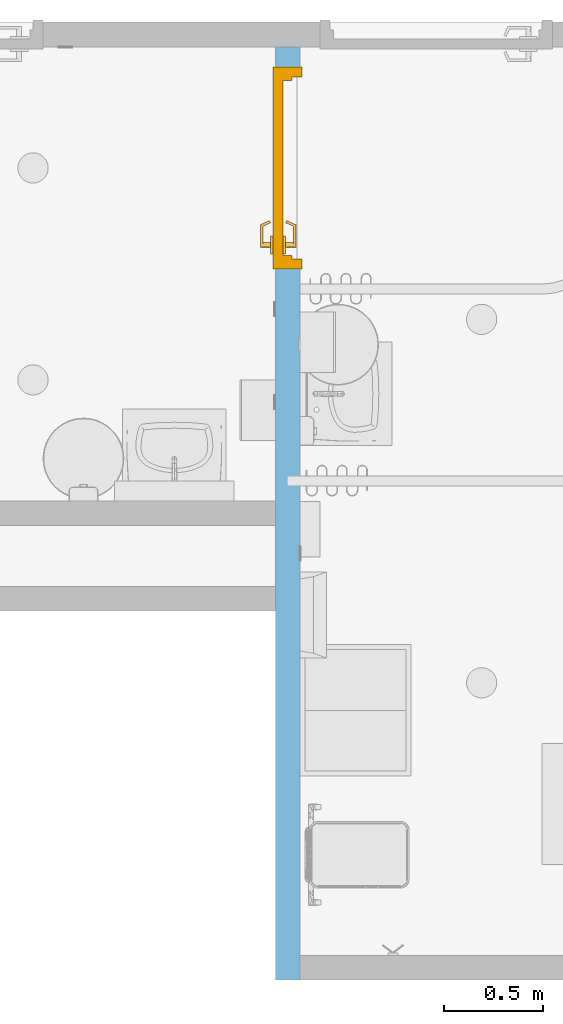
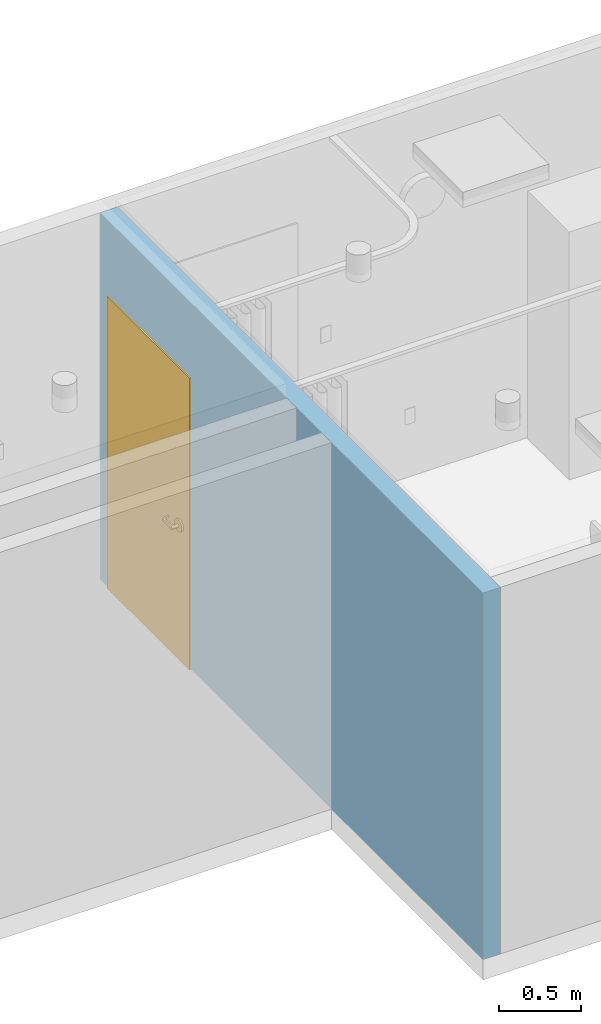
# One storey, part 3 of 14: 1 door, 1 opening, plus 1 element that does not belong to this part.
"""IFC2X3 building model written with IfcOpenShell, lengths in feet."""

from ifc_helpers import new_model, entity, si_unit, converted_unit, derived_unit, direction, frame, frame_2d, origin, place, context, subcontext, project, spatial, rectangle, extrude, faceted_brep, source, transform, mapped, material, layer, layer_set, layer_usage, type_object, type_shapes, element, fill, save


model = new_model("IFC2X3")

# Units and contexts
model_context = context("Model", 3, precision=0.0001, world=origin(), true_north=direction((6.12303176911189e-17, 1.0)))
body_context = subcontext(model_context, "Body", "Model", "MODEL_VIEW")
ifc_project = project(units=[converted_unit("LENGTHUNIT", "FOOT", entity("IfcRatioMeasure", 0.3048), si_unit("LENGTHUNIT", "METRE"), dimensions=[1, 0, 0, 0, 0, 0, 0]), converted_unit("AREAUNIT", "SQUARE FOOT", entity("IfcRatioMeasure", 0.09290304), si_unit("AREAUNIT", "SQUARE_METRE"), dimensions=[2, 0, 0, 0, 0, 0, 0]), converted_unit("VOLUMEUNIT", "CUBIC FOOT", entity("IfcRatioMeasure", 0.028316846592), si_unit("VOLUMEUNIT", "CUBIC_METRE"), dimensions=[3, 0, 0, 0, 0, 0, 0]), converted_unit("PLANEANGLEUNIT", "DEGREE", entity("IfcRatioMeasure", 0.0174532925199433), si_unit("PLANEANGLEUNIT", "RADIAN"), dimensions=[0, 0, 0, 0, 0, 0, 0]), si_unit("MASSUNIT", "GRAM", prefix="KILO"), derived_unit("MASSDENSITYUNIT", [(si_unit("MASSUNIT", "GRAM", prefix="KILO"), 1), (si_unit("LENGTHUNIT", "METRE"), -3)]), si_unit("TIMEUNIT", "SECOND"), si_unit("FREQUENCYUNIT", "HERTZ"), si_unit("THERMODYNAMICTEMPERATUREUNIT", "DEGREE_CELSIUS"), derived_unit("THERMALTRANSMITTANCEUNIT", [(si_unit("MASSUNIT", "GRAM", prefix="KILO"), 1), (si_unit("THERMODYNAMICTEMPERATUREUNIT", "KELVIN"), -1), (si_unit("TIMEUNIT", "SECOND"), -3)]), derived_unit("VOLUMETRICFLOWRATEUNIT", [(si_unit("LENGTHUNIT", "METRE"), 3), (si_unit("TIMEUNIT", "SECOND"), -1)]), si_unit("ELECTRICCURRENTUNIT", "AMPERE"), si_unit("ELECTRICVOLTAGEUNIT", "VOLT"), si_unit("POWERUNIT", "WATT"), si_unit("FORCEUNIT", "NEWTON"), si_unit("ILLUMINANCEUNIT", "LUX"), si_unit("LUMINOUSFLUXUNIT", "LUMEN"), si_unit("LUMINOUSINTENSITYUNIT", "CANDELA"), derived_unit("USERDEFINED", [(si_unit("MASSUNIT", "GRAM", prefix="KILO"), -1), (si_unit("LENGTHUNIT", "METRE"), -2), (si_unit("TIMEUNIT", "SECOND"), 3), (si_unit("LUMINOUSFLUXUNIT", "LUMEN"), 1)]), derived_unit("LINEARVELOCITYUNIT", [(si_unit("LENGTHUNIT", "METRE"), 1), (si_unit("TIMEUNIT", "SECOND"), -1)]), si_unit("PRESSUREUNIT", "PASCAL"), derived_unit("USERDEFINED", [(si_unit("LENGTHUNIT", "METRE"), -2), (si_unit("MASSUNIT", "GRAM", prefix="KILO"), 1), (si_unit("TIMEUNIT", "SECOND"), -2)])], contexts=[model_context])

# Site, building, storey
site_placement = place(None, origin())
site = spatial("IfcSite", under=ifc_project, at=site_placement, Name="Default", CompositionType="ELEMENT")
building_placement = place(site_placement, origin())
building = spatial("IfcBuilding", under=site, at=building_placement, Name="OUTPATIENT / PACT CLINIC (Ch. 265)", CompositionType="ELEMENT")
storey_placement = place(building_placement, origin())
storey = spatial("IfcBuildingStorey", under=building, at=storey_placement, Name="DATUM", CompositionType="ELEMENT", Elevation=0.0)

# Wall, opening, door
ifc_material = material(Name="<Unnamed>")
ifc_layer = layer(ifc_material, 0.40625)
ifc_layer_set = layer_set([ifc_layer], Name="Basic Wall:Interior - 4 7/8\"")
ifc_layer_usage = layer_usage(ifc_layer_set, "AXIS2", "NEGATIVE", 0.203125)
wall_type = type_object("IfcWallType", Name="Basic Wall:Interior - 4 7/8\"", PredefinedType="STANDARD", material=ifc_layer_set)
wall_placement = place(storey_placement, frame((332.434568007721, -843.093724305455, 0.0), z_axis=(0.0, 0.0, 1.0), x_axis=(0.0, -1.0, 0.0)))
wall = element("IfcWallStandardCase", 1, at=wall_placement, inside=storey, type_object=wall_type, material=ifc_layer_usage, Name="Basic Wall:Interior - 4 7/8\"", ObjectType="Basic Wall:Interior - 4 7/8\"", context=body_context, shape_type="SweptSolid", body=[
    extrude(rectangle(XDim=15.40625, YDim=0.40625, at=frame_2d((7.703125, -3.38618022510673e-15), x_axis=(-1.0, 0.0))), origin(), (0.0, 0.0, 1.0), 9.0),
])
opening_placement = place(wall_placement, frame((3.66666666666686, 0.203125, 0.0)))
opening = element("IfcOpeningElement", 2, at=opening_placement, cuts=wall, Name="Single - Flush:36\" x 84\":1", ObjectType="Opening", context=body_context, shape_type="SweptSolid", body=[
    extrude(rectangle(XDim=3.33333333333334, YDim=7.16666666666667, at=frame_2d((3.58333333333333, 1.66666666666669), x_axis=(0.0, 1.0))), frame((0.0, 0.0, 0.0), z_axis=(0.0, -1.0, 0.0), x_axis=(0.0, 0.0, 1.0)), (0.0, 0.0, 1.0), 0.40625),
])
door_style = type_object("IfcDoorStyle", Name="36\" x 84\"", ConstructionType="NOTDEFINED", OperationType="NOTDEFINED", ParameterTakesPrecedence=False, Sizeable=False)
shared_shape = source(origin(), body_context, "Body", "Brep", [
    faceted_brep([(-2.57149311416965, 0.23636872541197, 3.3541666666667), (-2.57149311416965, 0.23636872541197, 3.31250000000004), (-2.62432039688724, 0.12308025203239, 3.30208333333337), (-2.63071126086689, 0.109375, 3.30208333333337), (-2.63071126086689, 0.109375, 3.36458333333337), (-2.62432039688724, 0.123080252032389, 3.36458333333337), (-2.53373028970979, 0.218759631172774, 3.3541666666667), (-2.58655757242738, 0.105471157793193, 3.36458333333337), (-2.60416666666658, 0.0677083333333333, 3.36458333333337), (-2.60416666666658, 0.0677083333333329, 3.30208333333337), (-2.58655757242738, 0.105471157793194, 3.30208333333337), (-2.53373028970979, 0.218759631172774, 3.31250000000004), (-2.60416666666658, 0.109375, 3.30208333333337), (-2.60416666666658, 0.109375, 3.36458333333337), (-2.93619600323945, 0.0677083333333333, 3.29168707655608), (-2.93619600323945, 0.0677083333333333, 3.37497959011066), (-2.94639661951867, 0.0677083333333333, 3.37403912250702), (-2.95605949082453, 0.0677083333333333, 3.37063824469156), (-2.96460055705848, 0.0677083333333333, 3.36498251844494), (-2.97150356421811, 0.0677083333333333, 3.35741379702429), (-2.97635126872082, 0.0677083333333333, 3.34838956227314), (-2.97885065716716, 0.0677083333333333, 3.33845527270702), (-2.97885065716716, 0.0677083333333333, 3.32821139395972), (-2.97635126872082, 0.0677083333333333, 3.31827710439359), (-2.97150356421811, 0.0677083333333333, 3.30925286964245), (-2.96460055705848, 0.0677083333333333, 3.3016841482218), (-2.95605949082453, 0.0677083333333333, 3.29602842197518), (-2.94639661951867, 0.0677083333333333, 3.29262754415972), (-2.93619600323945, 0.109375, 3.29168707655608), (-2.92566985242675, 0.109375, 3.29338137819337), (-2.91591827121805, 0.109375, 3.29769150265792), (-2.90757973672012, 0.109375, 3.30433524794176), (-2.90120020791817, 0.109375, 3.31287762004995), (-2.89719737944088, 0.109375, 3.32275931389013), (-2.89583333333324, 0.109375, 3.33333333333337), (-2.89719737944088, 0.109375, 3.34390735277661), (-2.90120020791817, 0.109375, 3.35378904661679), (-2.90757973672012, 0.109375, 3.36233141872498), (-2.91591827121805, 0.109375, 3.36897516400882), (-2.92566985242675, 0.109375, 3.37328528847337), (-2.93619600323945, 0.109375, 3.37497959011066), (-2.94568224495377, 0.109375, 3.29247795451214), (-2.95473886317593, 0.109375, 3.2954000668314), (-2.96972778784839, 0.109375, 3.30692347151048), (-2.96289592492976, 0.109375, 3.30030065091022), (-2.97487870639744, 0.109375, 3.31492291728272), (-2.97808054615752, 0.109375, 3.32388185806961), (-2.97916666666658, 0.109375, 3.33333333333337), (-2.97808054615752, 0.109375, 3.34278480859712), (-2.97487870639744, 0.109375, 3.35174374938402), (-2.96289592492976, 0.109375, 3.36636601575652), (-2.96972778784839, 0.109375, 3.35974319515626), (-2.95473886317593, 0.109375, 3.37126659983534), (-2.94568224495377, 0.109375, 3.3741887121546), (-2.97916666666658, 0.234375, 3.33333333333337), (-2.97774690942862, 0.234375, 3.34411746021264), (-2.97358439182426, 0.234375, 3.3541666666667), (-2.95833333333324, 0.234375, 3.36941772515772), (-2.96696278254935, 0.234375, 3.36279611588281), (-2.94828412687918, 0.234375, 3.37358024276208), (-2.93749999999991, 0.234375, 3.37500000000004), (-2.92671587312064, 0.234375, 3.37358024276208), (-2.91666666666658, 0.234375, 3.36941772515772), (-2.90141560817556, 0.234375, 3.3541666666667), (-2.90803721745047, 0.234375, 3.36279611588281), (-2.8972530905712, 0.234375, 3.34411746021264), (-2.89583333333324, 0.234375, 3.33333333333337), (-2.8972530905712, 0.234375, 3.3225492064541), (-2.90141560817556, 0.234375, 3.31250000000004), (-2.91666666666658, 0.234375, 3.29724894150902), (-2.90803721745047, 0.234375, 3.30387055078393), (-2.92671587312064, 0.234375, 3.29308642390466), (-2.93749999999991, 0.234375, 3.2916666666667), (-2.94828412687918, 0.234375, 3.29308642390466), (-2.95833333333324, 0.234375, 3.29724894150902), (-2.97358439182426, 0.234375, 3.31250000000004), (-2.96696278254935, 0.234375, 3.30387055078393), (-2.97774690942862, 0.234375, 3.3225492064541), (-2.86458333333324, 0.234375, 3.4596287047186), (-2.83438026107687, 0.234375, 3.43645307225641), (-2.89975555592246, 0.234375, 3.47419751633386), (-2.93749999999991, 0.234375, 3.4791666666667), (-2.97524444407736, 0.234375, 3.47419751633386), (-3.01041666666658, 0.234375, 3.4596287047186), (-3.04061973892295, 0.234375, 3.43645307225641), (-3.06379537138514, 0.234375, 3.40625000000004), (-3.0783641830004, 0.234375, 3.37107777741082), (-3.08333333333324, 0.234375, 3.33333333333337), (-3.0783641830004, 0.234375, 3.29558888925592), (-3.06379537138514, 0.234375, 3.2604166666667), (-3.04061973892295, 0.234375, 3.23021359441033), (-3.01041666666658, 0.234375, 3.20703796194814), (-2.97524444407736, 0.234375, 3.19246915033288), (-2.93749999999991, 0.234375, 3.18750000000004), (-2.89975555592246, 0.234375, 3.19246915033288), (-2.86458333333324, 0.234375, 3.20703796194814), (-2.83438026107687, 0.234375, 3.23021359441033), (-2.81120462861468, 0.234375, 3.2604166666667), (-2.79663581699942, 0.234375, 3.29558888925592), (-2.79166666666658, 0.234375, 3.33333333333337), (-2.79663581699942, 0.234375, 3.37107777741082), (-2.81120462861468, 0.234375, 3.40625000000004), (-2.89975555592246, 0.276041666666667, 3.19246915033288), (-2.93749999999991, 0.276041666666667, 3.18750000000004), (-2.97524444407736, 0.276041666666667, 3.19246915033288), (-3.01041666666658, 0.276041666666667, 3.20703796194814), (-3.04061973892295, 0.276041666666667, 3.23021359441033), (-3.06379537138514, 0.276041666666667, 3.2604166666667), (-3.0783641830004, 0.276041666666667, 3.29558888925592), (-3.08333333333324, 0.276041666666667, 3.33333333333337), (-3.0783641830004, 0.276041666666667, 3.37107777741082), (-3.06379537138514, 0.276041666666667, 3.40625000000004), (-3.04061973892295, 0.276041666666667, 3.43645307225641), (-3.01041666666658, 0.276041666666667, 3.4596287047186), (-2.97524444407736, 0.276041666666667, 3.47419751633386), (-2.93749999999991, 0.276041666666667, 3.4791666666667), (-2.89975555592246, 0.276041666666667, 3.47419751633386), (-2.86458333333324, 0.276041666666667, 3.4596287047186), (-2.83438026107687, 0.276041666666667, 3.43645307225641), (-2.81120462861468, 0.276041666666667, 3.40625000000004), (-2.79663581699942, 0.276041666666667, 3.37107777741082), (-2.79166666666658, 0.276041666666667, 3.33333333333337), (-2.79663581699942, 0.276041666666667, 3.29558888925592), (-2.81120462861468, 0.276041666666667, 3.2604166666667), (-2.83438026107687, 0.276041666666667, 3.23021359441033), (-2.86458333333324, 0.276041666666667, 3.20703796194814)], [[[0, 1, 2, 3, 4, 5]], [[6, 7, 8, 9, 10, 11]], [[12, 3, 2, 10, 9]], [[11, 10, 2, 1]], [[11, 1, 0, 6]], [[7, 6, 0, 5]], [[13, 8, 7, 5, 4]], [[14, 9, 8, 15, 16, 17, 18, 19, 20, 21, 22, 23, 24, 25, 26, 27]], [[3, 12, 28, 29, 30, 31, 32, 33, 34, 35, 36, 37, 38, 39, 40, 13, 4]], [[28, 12, 9, 14]], [[28, 14, 41]], [[41, 27, 42]], [[43, 44, 25]], [[24, 45, 43]], [[26, 44, 42]], [[45, 23, 46]], [[27, 26, 42]], [[41, 14, 27]], [[45, 24, 23]], [[24, 43, 25]], [[44, 26, 25]], [[46, 23, 22]], [[22, 47, 46]], [[47, 21, 48]], [[48, 20, 49]], [[50, 51, 18]], [[17, 52, 50]], [[19, 51, 49]], [[52, 16, 53]], [[51, 19, 18]], [[49, 20, 19]], [[48, 21, 20]], [[53, 16, 15]], [[16, 52, 17]], [[50, 18, 17]], [[40, 53, 15]], [[22, 21, 47]], [[40, 15, 8, 13]], [[54, 48, 55]], [[55, 49, 56]], [[57, 58, 50]], [[51, 58, 56]], [[59, 57, 52]], [[48, 49, 55]], [[54, 47, 48]], [[57, 50, 52]], [[50, 58, 51]], [[56, 49, 51]], [[59, 52, 53]], [[53, 60, 59]], [[60, 40, 61]], [[61, 39, 62]], [[63, 64, 37]], [[36, 65, 63]], [[38, 64, 62]], [[65, 35, 66]], [[39, 38, 62]], [[61, 40, 39]], [[65, 36, 35]], [[36, 63, 37]], [[64, 38, 37]], [[66, 35, 34]], [[53, 40, 60]], [[66, 33, 67]], [[67, 32, 68]], [[69, 70, 30]], [[31, 70, 68]], [[71, 69, 29]], [[33, 32, 67]], [[66, 34, 33]], [[69, 30, 29]], [[30, 70, 31]], [[68, 32, 31]], [[71, 29, 28]], [[28, 72, 71]], [[72, 41, 73]], [[73, 42, 74]], [[75, 76, 43]], [[45, 77, 75]], [[44, 76, 74]], [[77, 46, 54]], [[42, 44, 74]], [[73, 41, 42]], [[77, 45, 46]], [[45, 75, 43]], [[76, 44, 43]], [[54, 46, 47]], [[28, 41, 72]], [[78, 61, 62]], [[78, 62, 79]], [[78, 80, 61]], [[60, 61, 80]], [[81, 60, 80]], [[60, 81, 59]], [[82, 59, 81]], [[82, 57, 59]], [[57, 82, 83]], [[57, 83, 58]], [[84, 58, 83]], [[58, 84, 56]], [[56, 84, 85]], [[56, 85, 55]], [[55, 85, 86]], [[54, 55, 86]], [[87, 54, 86]], [[77, 54, 87]], [[88, 77, 87]], [[75, 77, 88]], [[89, 75, 88]], [[75, 89, 90]], [[76, 75, 90]], [[90, 91, 76]], [[91, 74, 76]], [[74, 91, 92]], [[74, 92, 73]], [[92, 93, 73]], [[72, 73, 93]], [[93, 94, 72]], [[72, 94, 71]], [[95, 71, 94]], [[71, 95, 69]], [[69, 95, 96]], [[70, 69, 96]], [[97, 70, 96]], [[68, 70, 97]], [[98, 68, 97]], [[68, 98, 67]], [[67, 98, 99]], [[99, 66, 67]], [[99, 100, 66]], [[65, 66, 100]], [[101, 65, 100]], [[64, 101, 79]], [[101, 63, 65]], [[63, 101, 64]], [[64, 79, 62]], [[102, 103, 104, 105, 106, 107, 108, 109, 110, 111, 112, 113, 114, 115, 116, 117, 118, 119, 120, 121, 122, 123, 124, 125]], [[109, 87, 86, 110]], [[110, 86, 85, 111]], [[113, 112, 84, 83]], [[84, 112, 111, 85]], [[114, 113, 83, 82]], [[114, 82, 81, 115]], [[115, 81, 80, 116]], [[116, 80, 78, 117]], [[119, 118, 79, 101]], [[79, 118, 117, 78]], [[120, 119, 101, 100]], [[120, 100, 99, 121]], [[121, 99, 98, 122]], [[122, 98, 97, 123]], [[125, 124, 96, 95]], [[96, 124, 123, 97]], [[102, 125, 95, 94]], [[102, 94, 93, 103]], [[103, 93, 92, 104]], [[104, 92, 91, 105]], [[107, 106, 90, 89]], [[90, 106, 105, 91]], [[108, 107, 89, 88]], [[108, 88, 87, 109]]]),
    faceted_brep([(-2.57149311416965, 0.482381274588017, 3.31249999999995), (-2.57149311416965, 0.482381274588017, 3.35416666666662), (-2.62432039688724, 0.595669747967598, 3.36458333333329), (-2.63071126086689, 0.609374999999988, 3.36458333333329), (-2.63071126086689, 0.609374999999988, 3.30208333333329), (-2.62432039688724, 0.595669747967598, 3.30208333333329), (-2.53373028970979, 0.499990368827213, 3.31249999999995), (-2.58655757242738, 0.613278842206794, 3.30208333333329), (-2.60416666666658, 0.651041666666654, 3.30208333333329), (-2.60416666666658, 0.651041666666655, 3.36458333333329), (-2.58655757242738, 0.613278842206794, 3.36458333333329), (-2.53373028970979, 0.499990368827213, 3.35416666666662), (-2.60416666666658, 0.609374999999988, 3.36458333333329), (-2.60416666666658, 0.609374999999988, 3.30208333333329), (-2.93619600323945, 0.651041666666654, 3.37497959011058), (-2.93619600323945, 0.651041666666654, 3.291687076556), (-2.94639661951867, 0.651041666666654, 3.29262754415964), (-2.95605949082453, 0.651041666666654, 3.2960284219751), (-2.96460055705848, 0.651041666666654, 3.30168414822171), (-2.97150356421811, 0.651041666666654, 3.30925286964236), (-2.97635126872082, 0.651041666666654, 3.31827710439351), (-2.97885065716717, 0.651041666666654, 3.32821139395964), (-2.97885065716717, 0.651041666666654, 3.33845527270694), (-2.97635126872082, 0.651041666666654, 3.34838956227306), (-2.97150356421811, 0.651041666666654, 3.35741379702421), (-2.96460055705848, 0.651041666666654, 3.36498251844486), (-2.95605949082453, 0.651041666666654, 3.37063824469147), (-2.94639661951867, 0.651041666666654, 3.37403912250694), (-2.93619600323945, 0.609374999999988, 3.37497959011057), (-2.92566985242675, 0.609374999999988, 3.37328528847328), (-2.91591827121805, 0.609374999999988, 3.36897516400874), (-2.90757973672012, 0.609374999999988, 3.3623314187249), (-2.90120020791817, 0.609374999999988, 3.35378904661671), (-2.89719737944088, 0.609374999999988, 3.34390735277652), (-2.89583333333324, 0.609374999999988, 3.33333333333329), (-2.89719737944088, 0.609374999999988, 3.32275931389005), (-2.90120020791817, 0.609374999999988, 3.31287762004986), (-2.90757973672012, 0.609374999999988, 3.30433524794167), (-2.91591827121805, 0.609374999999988, 3.29769150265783), (-2.92566985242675, 0.609374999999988, 3.29338137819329), (-2.93619600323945, 0.609374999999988, 3.291687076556), (-2.94568224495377, 0.609374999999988, 3.37418871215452), (-2.95473886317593, 0.609374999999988, 3.37126659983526), (-2.96972778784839, 0.609374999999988, 3.35974319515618), (-2.96289592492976, 0.609374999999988, 3.36636601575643), (-2.97487870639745, 0.609374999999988, 3.35174374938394), (-2.97808054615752, 0.609374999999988, 3.34278480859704), (-2.97916666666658, 0.609374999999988, 3.33333333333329), (-2.97808054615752, 0.609374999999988, 3.32388185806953), (-2.97487870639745, 0.609374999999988, 3.31492291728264), (-2.96289592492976, 0.609374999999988, 3.30030065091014), (-2.96972778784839, 0.609374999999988, 3.30692347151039), (-2.95473886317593, 0.609374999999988, 3.29540006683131), (-2.94568224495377, 0.609374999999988, 3.29247795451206), (-2.97916666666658, 0.484374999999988, 3.33333333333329), (-2.97774690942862, 0.484374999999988, 3.32254920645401), (-2.97358439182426, 0.484374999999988, 3.31249999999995), (-2.95833333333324, 0.484374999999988, 3.29724894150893), (-2.96696278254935, 0.484374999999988, 3.30387055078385), (-2.94828412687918, 0.484374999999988, 3.29308642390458), (-2.93749999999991, 0.484374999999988, 3.29166666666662), (-2.92671587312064, 0.484374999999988, 3.29308642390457), (-2.91666666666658, 0.484374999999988, 3.29724894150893), (-2.90141560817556, 0.484374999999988, 3.31249999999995), (-2.90803721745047, 0.484374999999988, 3.30387055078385), (-2.8972530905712, 0.484374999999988, 3.32254920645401), (-2.89583333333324, 0.484374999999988, 3.33333333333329), (-2.8972530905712, 0.484374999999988, 3.34411746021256), (-2.90141560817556, 0.484374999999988, 3.35416666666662), (-2.91666666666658, 0.484374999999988, 3.36941772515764), (-2.90803721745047, 0.484374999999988, 3.36279611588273), (-2.92671587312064, 0.484374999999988, 3.373580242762), (-2.93749999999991, 0.484374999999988, 3.37499999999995), (-2.94828412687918, 0.484374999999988, 3.373580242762), (-2.95833333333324, 0.484374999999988, 3.36941772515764), (-2.97358439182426, 0.484374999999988, 3.35416666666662), (-2.96696278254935, 0.484374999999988, 3.36279611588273), (-2.97774690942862, 0.484374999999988, 3.34411746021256), (-2.86458333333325, 0.484374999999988, 3.20703796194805), (-2.83438026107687, 0.484374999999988, 3.23021359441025), (-2.89975555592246, 0.484374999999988, 3.1924691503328), (-2.93749999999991, 0.484374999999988, 3.18749999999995), (-2.97524444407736, 0.484374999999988, 3.1924691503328), (-3.01041666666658, 0.484374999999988, 3.20703796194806), (-3.04061973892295, 0.484374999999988, 3.23021359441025), (-3.06379537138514, 0.484374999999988, 3.26041666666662), (-3.0783641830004, 0.484374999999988, 3.29558888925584), (-3.08333333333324, 0.484374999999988, 3.33333333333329), (-3.0783641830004, 0.484374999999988, 3.37107777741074), (-3.06379537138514, 0.484374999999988, 3.40624999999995), (-3.04061973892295, 0.484374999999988, 3.43645307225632), (-3.01041666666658, 0.484374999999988, 3.45962870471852), (-2.97524444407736, 0.484374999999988, 3.47419751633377), (-2.93749999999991, 0.484374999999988, 3.47916666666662), (-2.89975555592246, 0.484374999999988, 3.47419751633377), (-2.86458333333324, 0.484374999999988, 3.45962870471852), (-2.83438026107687, 0.484374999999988, 3.43645307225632), (-2.81120462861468, 0.484374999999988, 3.40624999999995), (-2.79663581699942, 0.484374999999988, 3.37107777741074), (-2.79166666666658, 0.484374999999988, 3.33333333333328), (-2.79663581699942, 0.484374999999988, 3.29558888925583), (-2.81120462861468, 0.484374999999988, 3.26041666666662), (-2.89975555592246, 0.442708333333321, 3.47419751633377), (-2.93749999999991, 0.442708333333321, 3.47916666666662), (-2.97524444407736, 0.442708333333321, 3.47419751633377), (-3.01041666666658, 0.442708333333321, 3.45962870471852), (-3.04061973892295, 0.442708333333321, 3.43645307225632), (-3.06379537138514, 0.442708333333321, 3.40624999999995), (-3.0783641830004, 0.442708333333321, 3.37107777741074), (-3.08333333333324, 0.442708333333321, 3.33333333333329), (-3.0783641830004, 0.442708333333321, 3.29558888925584), (-3.06379537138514, 0.442708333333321, 3.26041666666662), (-3.04061973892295, 0.442708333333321, 3.23021359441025), (-3.01041666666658, 0.442708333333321, 3.20703796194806), (-2.97524444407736, 0.442708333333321, 3.1924691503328), (-2.93749999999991, 0.442708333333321, 3.18749999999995), (-2.89975555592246, 0.442708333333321, 3.1924691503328), (-2.86458333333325, 0.442708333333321, 3.20703796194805), (-2.83438026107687, 0.442708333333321, 3.23021359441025), (-2.81120462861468, 0.442708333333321, 3.26041666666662), (-2.79663581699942, 0.442708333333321, 3.29558888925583), (-2.79166666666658, 0.442708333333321, 3.33333333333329), (-2.79663581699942, 0.442708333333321, 3.37107777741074), (-2.81120462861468, 0.442708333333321, 3.40624999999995), (-2.83438026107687, 0.442708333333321, 3.43645307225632), (-2.86458333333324, 0.442708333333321, 3.45962870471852)], [[[0, 1, 2, 3, 4, 5]], [[6, 7, 8, 9, 10, 11]], [[12, 3, 2, 10, 9]], [[11, 10, 2, 1]], [[11, 1, 0, 6]], [[7, 6, 0, 5]], [[13, 8, 7, 5, 4]], [[14, 9, 8, 15, 16, 17, 18, 19, 20, 21, 22, 23, 24, 25, 26, 27]], [[3, 12, 28, 29, 30, 31, 32, 33, 34, 35, 36, 37, 38, 39, 40, 13, 4]], [[28, 12, 9, 14]], [[28, 14, 41]], [[41, 27, 42]], [[43, 44, 25]], [[24, 45, 43]], [[26, 44, 42]], [[45, 23, 46]], [[27, 26, 42]], [[41, 14, 27]], [[45, 24, 23]], [[24, 43, 25]], [[44, 26, 25]], [[46, 23, 22]], [[22, 47, 46]], [[47, 21, 48]], [[48, 20, 49]], [[50, 51, 18]], [[17, 52, 50]], [[19, 51, 49]], [[52, 16, 53]], [[51, 19, 18]], [[49, 20, 19]], [[48, 21, 20]], [[53, 16, 15]], [[16, 52, 17]], [[50, 18, 17]], [[40, 53, 15]], [[22, 21, 47]], [[40, 15, 8, 13]], [[54, 48, 55]], [[55, 49, 56]], [[57, 58, 50]], [[51, 58, 56]], [[59, 57, 52]], [[48, 49, 55]], [[54, 47, 48]], [[57, 50, 52]], [[50, 58, 51]], [[56, 49, 51]], [[59, 52, 53]], [[53, 60, 59]], [[60, 40, 61]], [[61, 39, 62]], [[63, 64, 37]], [[36, 65, 63]], [[38, 64, 62]], [[65, 35, 66]], [[39, 38, 62]], [[61, 40, 39]], [[65, 36, 35]], [[36, 63, 37]], [[64, 38, 37]], [[66, 35, 34]], [[53, 40, 60]], [[66, 33, 67]], [[67, 32, 68]], [[69, 70, 30]], [[31, 70, 68]], [[71, 69, 29]], [[33, 32, 67]], [[66, 34, 33]], [[69, 30, 29]], [[30, 70, 31]], [[68, 32, 31]], [[71, 29, 28]], [[28, 72, 71]], [[72, 41, 73]], [[73, 42, 74]], [[75, 76, 43]], [[45, 77, 75]], [[44, 76, 74]], [[77, 46, 54]], [[42, 44, 74]], [[73, 41, 42]], [[77, 45, 46]], [[45, 75, 43]], [[76, 44, 43]], [[54, 46, 47]], [[28, 41, 72]], [[78, 61, 62]], [[78, 62, 79]], [[78, 80, 61]], [[60, 61, 80]], [[81, 60, 80]], [[60, 81, 59]], [[82, 59, 81]], [[82, 57, 59]], [[57, 82, 83]], [[57, 83, 58]], [[84, 58, 83]], [[58, 84, 56]], [[56, 84, 85]], [[56, 85, 55]], [[55, 85, 86]], [[54, 55, 86]], [[87, 54, 86]], [[77, 54, 87]], [[88, 77, 87]], [[75, 77, 88]], [[89, 75, 88]], [[75, 89, 90]], [[76, 75, 90]], [[90, 91, 76]], [[91, 74, 76]], [[74, 91, 92]], [[74, 92, 73]], [[92, 93, 73]], [[72, 73, 93]], [[93, 94, 72]], [[72, 94, 71]], [[95, 71, 94]], [[71, 95, 69]], [[69, 95, 96]], [[70, 69, 96]], [[97, 70, 96]], [[68, 70, 97]], [[98, 68, 97]], [[68, 98, 67]], [[67, 98, 99]], [[99, 66, 67]], [[99, 100, 66]], [[65, 66, 100]], [[101, 65, 100]], [[64, 101, 79]], [[101, 63, 65]], [[63, 101, 64]], [[64, 79, 62]], [[102, 103, 104, 105, 106, 107, 108, 109, 110, 111, 112, 113, 114, 115, 116, 117, 118, 119, 120, 121, 122, 123, 124, 125]], [[109, 87, 86, 110]], [[110, 86, 85, 111]], [[113, 112, 84, 83]], [[84, 112, 111, 85]], [[114, 113, 83, 82]], [[114, 82, 81, 115]], [[115, 81, 80, 116]], [[116, 80, 78, 117]], [[119, 118, 79, 101]], [[79, 118, 117, 78]], [[120, 119, 101, 100]], [[120, 100, 99, 121]], [[121, 99, 98, 122]], [[122, 98, 97, 123]], [[125, 124, 96, 95]], [[96, 124, 123, 97]], [[102, 125, 95, 94]], [[102, 94, 93, 103]], [[103, 93, 92, 104]], [[104, 92, 91, 105]], [[107, 106, 90, 89]], [[90, 106, 105, 91]], [[108, 107, 89, 88]], [[108, 88, 87, 109]]]),
    faceted_brep([(-0.166666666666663, 0.442708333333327, 7.0), (-0.166666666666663, 0.442708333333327, 0.0), (-3.16666666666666, 0.442708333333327, 0.0), (-3.16666666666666, 0.442708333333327, 7.0), (-0.166666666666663, 0.276041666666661, 7.0), (-3.16666666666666, 0.276041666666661, 7.0), (-3.16666666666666, 0.276041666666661, 0.0), (-0.166666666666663, 0.276041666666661, 0.0)], [[[0, 1, 2, 3]], [[4, 5, 6, 7]], [[3, 5, 4, 0]], [[2, 6, 5, 3]], [[1, 7, 6, 2]], [[0, 4, 7, 1]]]),
    faceted_brep([(-0.166666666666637, 0.442708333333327, 0.0), (0.0, 0.442708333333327, 0.0), (0.0, -0.0364583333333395, 0.0), (-0.166666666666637, -0.0364583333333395, 0.0), (-0.166666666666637, 0.130208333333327, 0.0), (-0.218749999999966, 0.130208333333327, 0.0), (-0.218749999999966, 0.276041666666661, 0.0), (-0.166666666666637, 0.276041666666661, 0.0), (-0.166666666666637, 0.276041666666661, 7.0), (-0.166666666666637, 0.442708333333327, 7.0), (-0.218749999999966, 0.276041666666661, 6.94791666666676), (-3.11458333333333, 0.276041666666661, 6.94791666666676), (-3.11458333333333, 0.276041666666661, 0.0), (-3.16666666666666, 0.27604166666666, 0.0), (-3.16666666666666, 0.276041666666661, 7.0), (-0.218749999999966, 0.130208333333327, 6.94791666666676), (-0.166666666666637, 0.130208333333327, 7.0), (-3.16666666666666, 0.130208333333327, 7.0), (-3.16666666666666, 0.130208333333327, 0.0), (-3.11458333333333, 0.130208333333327, 0.0), (-3.11458333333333, 0.130208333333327, 6.94791666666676), (-0.166666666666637, -0.0364583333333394, 7.0), (0.0, -0.0364583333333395, 7.16666666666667), (-3.33333333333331, -0.0364583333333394, 7.16666666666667), (-3.33333333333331, -0.0364583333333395, 0.0), (-3.16666666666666, -0.0364583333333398, 0.0), (-3.16666666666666, -0.0364583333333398, 7.0), (0.0, 0.442708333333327, 7.16666666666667), (-3.16666666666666, 0.442708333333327, 7.0), (-3.16666666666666, 0.442708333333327, 0.0), (-3.33333333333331, 0.442708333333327, 0.0), (-3.33333333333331, 0.442708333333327, 7.16666666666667)], [[[0, 1, 2, 3, 4, 5, 6, 7]], [[7, 8, 9, 0]], [[6, 10, 11, 12, 13, 14, 8, 7]], [[5, 15, 10, 6]], [[4, 16, 17, 18, 19, 20, 15, 5]], [[3, 21, 16, 4]], [[2, 22, 23, 24, 25, 26, 21, 3]], [[1, 27, 22, 2]], [[0, 9, 28, 29, 30, 31, 27, 1]], [[29, 28, 14, 13]], [[29, 13, 12, 19, 18, 25, 24, 30]], [[12, 11, 20, 19]], [[17, 26, 25, 18]], [[30, 24, 23, 31]], [[14, 28, 9, 8]], [[15, 20, 11, 10]], [[21, 26, 17, 16]], [[23, 22, 27, 31]]]),
])
type_shapes(door_style, [shared_shape])
door_placement = place(opening_placement, frame((-3.33333333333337, 0.0, 0.0), z_axis=(0.0, 0.0, 1.0), x_axis=(-1.0, 0.0, 0.0)))
door = element("IfcDoor", 3, at=door_placement, inside=storey, type_object=door_style, Name="Single - Flush:36\" x 84\"", ObjectType="36\" x 84\"", OverallHeight=7.16666666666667, OverallWidth=3.33333333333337, context=body_context, shape_type="MappedRepresentation", body=[
    mapped(shared_shape, transform((0.0, 0.0, 0.0), scale=1.0)),
])
fill(opening, door)

save(model, "model.ifc")
